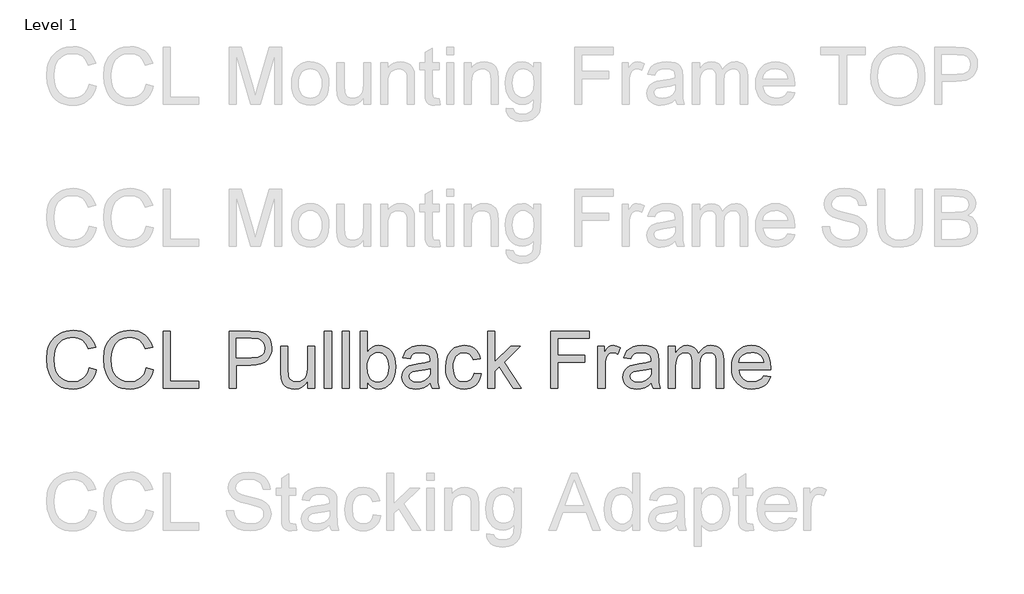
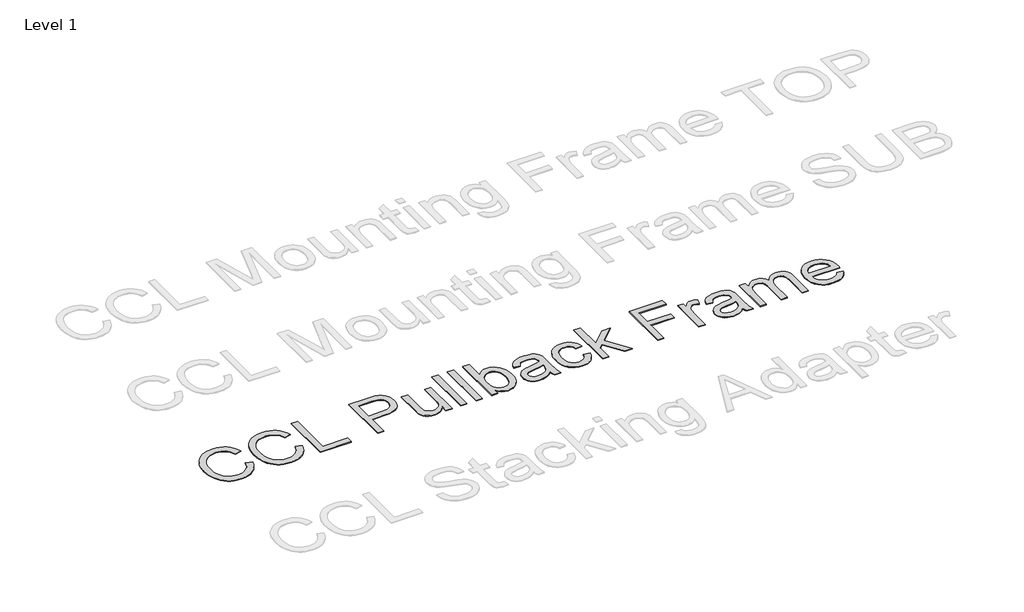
# One storey, part 3 of 31: 1 proxy.
"""IFC4 building model written with IfcOpenShell, lengths in millimetres."""

import ifcopenshell
import ifcopenshell.guid

model = None  # the IFC model being written
_history = None  # IfcOwnerHistory: only IFC2X3 demands one
_inside = {}  # id of a spatial element -> (the spatial element, [elements in it])
_under = {}  # id of a project, library or spatial element -> (it, [spatial elements below it])
_declared = {}  # id of a project -> (the project, [libraries it declares])
_typed = {}  # id of a type object -> (the type object, [elements of that type])
_made_of = {}  # id of a material, layer set ... -> (it, [elements and type objects made of it])


def new_model(schema):
    """Start an empty IFC model of exactly this schema.

    Asked for "IFC4X3", IfcOpenShell would pick the latest addendum, in which some entities
    have other attributes; the version numbers below select the first issue.
    IFC2X3 requires an IfcOwnerHistory on every rooted entity: one is made here for all.
    """
    global model, _history
    if schema == "IFC4X3":
        model = ifcopenshell.file(schema_version=(4, 3, 0, 0))
    else:
        model = ifcopenshell.file(schema=schema)
    _inside.clear()
    _under.clear()
    _declared.clear()
    _typed.clear()
    _made_of.clear()
    _history = None
    if model.schema == "IFC2X3":
        org = make("IfcOrganization", Name="unknown")
        user = make(
            "IfcPersonAndOrganization",
            ThePerson=make("IfcPerson", FamilyName="unknown"),
            TheOrganization=org,
        )
        app = make(
            "IfcApplication",
            ApplicationDeveloper=org,
            Version="unknown",
            ApplicationFullName="unknown",
            ApplicationIdentifier="unknown",
        )
        _history = make(
            "IfcOwnerHistory",
            OwningUser=user,
            OwningApplication=app,
            ChangeAction="ADDED",
            CreationDate=0,
        )
    return model


def make(cls, **values):
    """One entity of the class cls with the attributes given. An attribute that is None is left unset."""
    return model.create_entity(
        cls, **{name: value for name, value in values.items() if value is not None}
    )


def rooted(cls, **values):
    """An entity with a GlobalId (a new one), such as an element, a storey or a relation."""
    return make(cls, GlobalId=ifcopenshell.guid.new(), OwnerHistory=_history, **values)


def si_unit(unit_type, name, prefix=None):
    """IfcSIUnit, for example si_unit("LENGTHUNIT", "METRE", prefix="MILLI")."""
    return make("IfcSIUnit", UnitType=unit_type, Prefix=prefix, Name=name)


def assignment(units):
    """IfcUnitAssignment: the units of a project."""
    return None if units is None else make("IfcUnitAssignment", Units=units)


def point(xyz):
    """IfcCartesianPoint."""
    return None if xyz is None else make("IfcCartesianPoint", Coordinates=xyz)


def direction(xyz):
    """IfcDirection."""
    return None if xyz is None else make("IfcDirection", DirectionRatios=xyz)


def frame(location, z_axis=None, x_axis=None):
    """IfcAxis2Placement3D, a coordinate frame: its origin and axes. An axis left out is left unset."""
    return make(
        "IfcAxis2Placement3D",
        Location=point(location),
        Axis=direction(z_axis),
        RefDirection=direction(x_axis),
    )


def origin():
    """The frame at (0, 0, 0) with its axes left unset."""
    return frame((0.0, 0.0, 0.0))


def origin_with_axes():
    """The frame at (0, 0, 0) with the z axis (0, 0, 1) and the x axis (1, 0, 0) written out."""
    return frame((0.0, 0.0, 0.0), z_axis=(0.0, 0.0, 1.0), x_axis=(1.0, 0.0, 0.0))


def place(relative_to, where):
    """IfcLocalPlacement: puts the frame where relative to a parent placement (None: the world)."""
    return make(
        "IfcLocalPlacement", PlacementRelTo=relative_to, RelativePlacement=where
    )


def context(
    kind, dimensions, precision=None, world=None, true_north=None, identifier=None
):
    """IfcGeometricRepresentationContext, for example the 3D "Model" context."""
    return make(
        "IfcGeometricRepresentationContext",
        ContextIdentifier=identifier,
        ContextType=kind,
        CoordinateSpaceDimension=dimensions,
        Precision=precision,
        WorldCoordinateSystem=world,
        TrueNorth=true_north,
    )


def project(units=None, contexts=None):
    """IfcProject with its units and contexts."""
    return rooted(
        "IfcProject",
        Name="project",
        RepresentationContexts=contexts,
        UnitsInContext=assignment(units),
    )


def spatial(cls, under=None, at=None, **own):
    """A site, building, storey or space (cls), placed at a placement, below another one or the project."""
    s = rooted(cls, ObjectPlacement=at, **own)
    if under is not None:
        _under.setdefault(under.id(), (under, []))[1].append(s)
    return s


def polyline(points):
    """IfcPolyline through the points."""
    return make("IfcPolyline", Points=[point(p) for p in points])


def outline(outer, holes=None, kind="AREA"):
    """IfcArbitraryClosedProfileDef: a profile drawn as a closed curve; with holes, ...WithVoids."""
    if holes is None:
        return make("IfcArbitraryClosedProfileDef", ProfileType=kind, OuterCurve=outer)
    return make(
        "IfcArbitraryProfileDefWithVoids",
        ProfileType=kind,
        OuterCurve=outer,
        InnerCurves=holes,
    )


def extrude(swept, where, along, depth):
    """IfcExtrudedAreaSolid: the profile swept, set in the frame where, extruded along a direction by depth."""
    return make(
        "IfcExtrudedAreaSolid",
        SweptArea=swept,
        Position=where,
        ExtrudedDirection=direction(along),
        Depth=depth,
    )


def shape(context_of_items, identifier, shape_type, items):
    """IfcShapeRepresentation: the items that make up one representation, for example the "Body"."""
    return make(
        "IfcShapeRepresentation",
        ContextOfItems=context_of_items,
        RepresentationIdentifier=identifier,
        RepresentationType=shape_type,
        Items=items,
    )


def made_of(thing, what):
    """Note that an element or type object is made of a material, layer set ...; save() writes the relation."""
    if what is not None:
        _made_of.setdefault(what.id(), (what, []))[1].append(thing)
    return thing


def element(
    cls,
    number,
    at=None,
    inside=None,
    cuts=None,
    type_object=None,
    material=None,
    context=None,
    identifier="Body",
    shape_type=None,
    held_by="IfcProductDefinitionShape",
    body=None,
    shapes=None,
    **own,
):
    """One element of the class cls, such as IfcWall. Its Tag is "e" and its number.

    at: its placement. inside: the storey or other place that contains it. cuts: it is an
    opening in that element (IfcRelVoidsElement). A single representation is given by context,
    identifier, shape_type and body (its items); several are given by shapes. held_by: the class
    of the entity that holds the representations. save() writes the other relations.
    """
    e = rooted(cls, Tag="e%d" % number, ObjectPlacement=at, **own)
    if body is not None:
        shapes = [shape(context, identifier, shape_type, body)]
    if shapes is not None:
        e.Representation = make(held_by, Representations=shapes)
    if inside is not None:
        _inside.setdefault(inside.id(), (inside, []))[1].append(e)
    if cuts is not None:
        rooted(
            "IfcRelVoidsElement", RelatingBuildingElement=cuts, RelatedOpeningElement=e
        )
    if type_object is not None:
        _typed.setdefault(type_object.id(), (type_object, []))[1].append(e)
    return made_of(e, material)


def aggregate(whole, parts):
    """IfcRelAggregates: a whole, such as a stair, and the parts it consists of."""
    return rooted("IfcRelAggregates", RelatingObject=whole, RelatedObjects=parts)


def save(model, path):
    """Write the relations noted so far, then the file.

    IfcRelAggregates (storeys below a building ...), IfcRelContainedInSpatialStructure (elements
    in a storey), IfcRelDefinesByType, IfcRelAssociatesMaterial and IfcRelDeclares: one each for
    every whole, place, type object, material and project.
    """
    for whole, parts in _under.values():
        aggregate(whole, parts)
    for where, things in _inside.values():
        rooted(
            "IfcRelContainedInSpatialStructure",
            RelatedElements=things,
            RelatingStructure=where,
        )
    for kind, things in _typed.values():
        rooted("IfcRelDefinesByType", RelatedObjects=things, RelatingType=kind)
    for what, things in _made_of.values():
        rooted("IfcRelAssociatesMaterial", RelatedObjects=things, RelatingMaterial=what)
    for by, libraries in _declared.values():
        rooted("IfcRelDeclares", RelatingContext=by, RelatedDefinitions=libraries)
    model.write(path)


model = new_model("IFC4")

# Units and contexts
model_context = context("Model", 3, world=origin())
ifc_project = project(units=[si_unit("LENGTHUNIT", "METRE", prefix="MILLI")], contexts=[model_context])

# Site, building, storey
site = spatial("IfcSite", under=ifc_project)
building = spatial("IfcBuilding", under=site)
storey = spatial("IfcBuildingStorey", under=building, Name="Level 1", Elevation=0.0)

# Proxy
placement = place(None, origin())
element("IfcBuildingElementProxy", 1, Name="400mm Arial", ObjectType="400mm Arial", at=placement, inside=storey, context=model_context, shape_type="SweptSolid", body=[
    extrude(outline(polyline([(-20609.9461568, -17854.6815806), (-20559.7180017, -17867.6310268), (-20569.656947, -17898.8672739), (-20582.8945674, -17926.1610523), (-20599.4308631, -17949.5123619), (-20619.265834, -17968.9212029), (-20641.9518904, -17984.1791086), (-20667.0414425, -17995.0776127), (-20694.5344902, -18001.6167152), (-20724.4310337, -18003.796416), (-20755.0602755, -18002.1470784), (-20782.691279, -17997.1990655), (-20807.3240443, -17988.9523775), (-20828.9585713, -17977.4070142), (-20847.8922313, -17962.734654), (-20864.4223956, -17945.106975), (-20878.5490642, -17924.5239774), (-20890.2722371, -17900.9856611), (-20906.0543747, -17849.1142998), (-20911.3150873, -17793.5641185), (-20905.3676617, -17734.9727794), (-20897.9333797, -17708.6753481), (-20887.5253849, -17684.3767423), (-20874.3766693, -17662.4785666), (-20858.7202247, -17643.3824253), (-20840.5560512, -17627.0883186), (-20819.8841487, -17613.5962464), (-20797.4065588, -17603.0165734), (-20773.8253229, -17595.4596641), (-20723.3519132, -17589.4141366), (-20694.623395, -17591.3700426), (-20668.2799785, -17597.2377604), (-20644.3216636, -17607.0172901), (-20622.7484502, -17620.7086317), (-20603.9159578, -17637.9500345), (-20588.1798054, -17658.379748), (-20575.5399932, -17681.9977721), (-20565.9965211, -17708.8041068), (-20616.2246762, -17720.7725344), (-20633.6377573, -17684.1437504), (-20657.4274596, -17659.0174101), (-20687.8880888, -17644.4860713), (-20725.3139505, -17639.6422917), (-20768.4542458, -17645.0133688), (-20787.1365198, -17651.7272152), (-20803.8935447, -17661.1266002), (-20830.7857185, -17686.2897287), (-20848.2846387, -17718.8104971), (-20857.8863588, -17755.5741711), (-20861.0869322, -17793.4660166), (-20857.2977476, -17839.8681989), (-20845.930194, -17879.9918619), (-20826.5550756, -17912.3041638), (-20798.7431967, -17935.272263), (-20765.4008252, -17948.9942614), (-20729.4342288, -17953.5682609), (-20707.5973667, -17952.0108938), (-20687.5079441, -17947.3387925), (-20669.165961, -17939.5519569), (-20652.5714173, -17928.6503871), (-20638.1167206, -17914.683134), (-20626.1942783, -17897.6992486), (-20616.8040903, -17877.6987308), (-20609.9461568, -17854.6815806)])), origin_with_axes(), (0.0, 0.0, 1.0), 5.0),
    extrude(outline(polyline([(-20208.1209162, -17854.6815806), (-20157.8927611, -17867.6310268), (-20167.8317064, -17898.8672739), (-20181.0693268, -17926.1610523), (-20197.6056225, -17949.5123619), (-20217.4405934, -17968.9212029), (-20240.1266498, -17984.1791086), (-20265.2162019, -17995.0776127), (-20292.7092496, -18001.6167152), (-20322.6057931, -18003.796416), (-20353.2350349, -18002.1470784), (-20380.8660384, -17997.1990655), (-20405.4988037, -17988.9523775), (-20427.1333307, -17977.4070142), (-20446.0669907, -17962.734654), (-20462.597155, -17945.106975), (-20476.7238236, -17924.5239774), (-20488.4469965, -17900.9856611), (-20504.2291341, -17849.1142998), (-20509.4898467, -17793.5641185), (-20503.5424211, -17734.9727794), (-20496.1081391, -17708.6753481), (-20485.7001443, -17684.3767423), (-20472.5514287, -17662.4785666), (-20456.8949841, -17643.3824253), (-20438.7308106, -17627.0883186), (-20418.0589081, -17613.5962464), (-20395.5813182, -17603.0165734), (-20372.0000823, -17595.4596641), (-20321.5266726, -17589.4141366), (-20292.7981544, -17591.3700426), (-20266.4547379, -17597.2377604), (-20242.496423, -17607.0172901), (-20220.9232096, -17620.7086317), (-20202.0907172, -17637.9500345), (-20186.3545648, -17658.379748), (-20173.7147526, -17681.9977721), (-20164.1712805, -17708.8041068), (-20214.3994356, -17720.7725344), (-20231.8125167, -17684.1437504), (-20255.602219, -17659.0174101), (-20286.0628482, -17644.4860713), (-20323.4887099, -17639.6422917), (-20366.6290052, -17645.0133688), (-20385.3112792, -17651.7272152), (-20402.0683041, -17661.1266002), (-20428.9604779, -17686.2897287), (-20446.4593981, -17718.8104971), (-20456.0611182, -17755.5741711), (-20459.2616916, -17793.4660166), (-20455.472507, -17839.8681989), (-20444.1049534, -17879.9918619), (-20424.729835, -17912.3041638), (-20396.9179561, -17935.272263), (-20363.5755846, -17948.9942614), (-20327.6089882, -17953.5682609), (-20305.7721261, -17952.0108938), (-20285.6827035, -17947.3387925), (-20267.3407204, -17939.5519569), (-20250.7461767, -17928.6503871), (-20236.29148, -17914.683134), (-20224.3690377, -17897.6992486), (-20214.9788497, -17877.6987308), (-20208.1209162, -17854.6815806)])), origin_with_axes(), (0.0, 0.0, 1.0), 5.0),
    extrude(outline(polyline([(-20088.8290479, -17997.5178966), (-20088.8290479, -17595.692656), (-20038.6008928, -17595.692656), (-20038.6008928, -17947.2897415), (-19837.6882725, -17947.2897415), (-19837.6882725, -17997.5178966), (-20088.8290479, -17997.5178966)])), origin_with_axes(), (0.0, 0.0, 1.0), 5.0),
    extrude(outline(polyline([(-19624.2186135, -17997.5178966), (-19624.2186135, -17595.692656), (-19475.2999818, -17595.692656), (-19415.2616402, -17599.5186288), (-19388.4920937, -17606.6678022), (-19366.4559622, -17618.305136), (-19348.7117873, -17634.9579276), (-19334.8181106, -17657.1534747), (-19325.8417899, -17683.33441), (-19322.849683, -17711.9433665), (-19324.8699683, -17736.6098543), (-19330.9308242, -17759.302042), (-19341.0322506, -17780.0199297), (-19355.1742477, -17798.7635173), (-19374.5892199, -17814.3004003), (-19400.5095722, -17825.3981738), (-19432.9353044, -17832.0568379), (-19471.8664165, -17834.2763926), (-19573.9904584, -17834.2763926), (-19573.9904584, -17997.5178966), (-19624.2186135, -17997.5178966)]), holes=[polyline([(-19573.9904584, -17784.0482375), (-19468.9233606, -17784.0482375), (-19424.3851137, -17779.4374499), (-19407.781373, -17773.6739653), (-19394.9545541, -17765.6050868), (-19385.3834908, -17755.4454124), (-19378.5470171, -17743.4095398), (-19373.0778381, -17713.7092001), (-19376.3029369, -17691.145771), (-19385.9782334, -17672.1140091), (-19400.9019797, -17657.7911368), (-19419.8724279, -17649.3543764), (-19470.1005829, -17645.9208111), (-19573.9904584, -17645.9208111), (-19573.9904584, -17784.0482375)])]), origin_with_axes(), (0.0, 0.0, 1.0), 5.0),
    extrude(outline(polyline([(-19071.7089076, -17997.5178966), (-19071.7089076, -17946.7992322), (-19089.8822782, -17971.7355001), (-19111.0477557, -17989.54712), (-19135.20534, -18000.234092), (-19162.3550312, -18003.796416), (-19186.8191839, -18001.2948184), (-19209.5910794, -17993.7900257), (-19228.6964177, -17982.5083112), (-19242.1608987, -17968.6759482), (-19251.2230585, -17951.8760037), (-19257.1214332, -17931.6915449), (-19260.0644892, -17884.995057), (-19260.0644892, -17702.4274855), (-19209.8363341, -17702.4274855), (-19209.8363341, -17861.3525075), (-19206.7951763, -17912.5616812), (-19199.4743246, -17929.6436685), (-19186.9295485, -17942.6299029), (-19169.994714, -17950.8336714), (-19149.5036869, -17953.5682609), (-19127.8354374, -17950.7723578), (-19107.5651394, -17942.3846483), (-19090.8510341, -17929.1776846), (-19079.8513625, -17911.9240191), (-19073.7445213, -17888.2937322), (-19071.7089076, -17855.9569049), (-19071.7089076, -17702.4274855), (-19021.4807526, -17702.4274855), (-19021.4807526, -17997.5178966), (-19071.7089076, -17997.5178966)])), origin_with_axes(), (0.0, 0.0, 1.0), 5.0),
    extrude(outline(polyline([(-18952.4170393, -17997.5178966), (-18952.4170393, -17595.692656), (-18902.1888843, -17595.692656), (-18902.1888843, -17997.5178966), (-18952.4170393, -17997.5178966)])), origin_with_axes(), (0.0, 0.0, 1.0), 5.0),
    extrude(outline(polyline([(-18826.8466516, -17997.5178966), (-18826.8466516, -17595.692656), (-18776.6184966, -17595.692656), (-18776.6184966, -17997.5178966), (-18826.8466516, -17997.5178966)])), origin_with_axes(), (0.0, 0.0, 1.0), 5.0),
    extrude(outline(polyline([(-18651.0481089, -17997.5178966), (-18701.276264, -17997.5178966), (-18701.276264, -17595.692656), (-18651.0481089, -17595.692656), (-18651.0481089, -17744.7093895), (-18634.5302073, -17723.4642043), (-18615.8785901, -17708.289072), (-18595.0932574, -17699.1839926), (-18572.1742091, -17696.1489662), (-18546.2998421, -17698.8835557), (-18521.8479522, -17707.0873241), (-18500.2164909, -17720.2452368), (-18482.8034098, -17737.8422589), (-18469.1549877, -17759.7067122), (-18458.8175037, -17785.6669183), (-18452.3059924, -17814.6437568), (-18450.1354886, -17845.5581071), (-18452.3826344, -17881.2303979), (-18459.124072, -17912.6107321), (-18470.3598013, -17939.6991097), (-18486.0898222, -17962.4955307), (-18504.9713656, -17980.564668), (-18525.6616622, -17993.4711947), (-18548.1607119, -18001.2151107), (-18572.4685147, -18003.796416), (-18596.1417211, -18000.4670839), (-18617.1293889, -17990.4790878), (-18635.4315182, -17973.8324275), (-18651.0481089, -17950.5271031), (-18651.0481089, -17997.5178966)]), holes=[polyline([(-18651.0481089, -17847.9125519), (-18647.6145436, -17889.8020484), (-18637.3138477, -17918.1534875), (-18625.1430851, -17933.6474509), (-18610.9980223, -17944.7145676), (-18594.8786596, -17951.3548376), (-18576.7849968, -17953.5682609), (-18561.7631487, -17951.9373174), (-18547.7958956, -17947.0444869), (-18534.8832375, -17938.8897693), (-18523.0251746, -17927.4731647), (-18513.1107548, -17912.82533), (-18506.0290264, -17894.9769218), (-18501.7799893, -17873.9279403), (-18500.3636437, -17849.6783855), (-18505.7960345, -17803.7176615), (-18512.5865229, -17785.9244357), (-18522.0932068, -17771.5893006), (-18533.5251398, -17760.5589721), (-18546.0913757, -17752.6801661), (-18559.7919143, -17747.9528824), (-18574.6267558, -17746.3771212), (-18589.6486039, -17748.0080647), (-18603.615857, -17752.9008953), (-18616.528515, -17761.0556128), (-18628.386578, -17772.4722174), (-18638.3009978, -17786.9728994), (-18645.3827262, -17804.3798491), (-18649.6317632, -17824.6930666), (-18651.0481089, -17847.9125519)])]), origin_with_axes(), (0.0, 0.0, 1.0), 5.0),
    extrude(outline(polyline([(-18205.2732326, -17959.8467803), (-18229.2714014, -17980.4236466), (-18253.9808088, -17993.8881276), (-18279.9655403, -18001.3193439), (-18307.7896819, -18003.796416), (-18330.1538415, -18002.3064939), (-18349.7650176, -17997.8367277), (-18366.62321, -17990.3871173), (-18380.7284188, -17979.9576627), (-18391.8660462, -17967.2105516), (-18399.8214944, -17952.8079715), (-18404.5947633, -17936.7499224), (-18406.1858529, -17919.0364043), (-18403.7823572, -17898.2142834), (-18396.5718701, -17879.3051488), (-18385.4495711, -17863.118341), (-18371.3106398, -17850.4632004), (-18354.6946363, -17840.8982685), (-18336.141121, -17833.982087), (-18292.6819946, -17826.4282434), (-18241.3256681, -17818.4819923), (-18205.5675382, -17809.1623151), (-18205.2732326, -17797.9787024), (-18208.7313233, -17775.5624262), (-18219.1055956, -17760.8961973), (-18242.3066868, -17750.0068903), (-18274.6312514, -17746.3771212), (-18304.5523204, -17748.7928797), (-18325.4480177, -17756.040155), (-18339.6973136, -17769.4433223), (-18349.6791784, -17790.3267569), (-18399.9073335, -17784.0482375), (-18391.1885302, -17756.5797152), (-18378.1777703, -17734.9973049), (-18359.6610432, -17718.491666), (-18334.4243384, -17706.2534583), (-18303.559039, -17698.6750892), (-18268.1565283, -17696.1489662), (-18234.2010201, -17698.3807836), (-18207.2843208, -17705.0762359), (-18186.9894974, -17715.1439398), (-18172.899617, -17727.4925121), (-18163.5554143, -17742.7596149), (-18157.4976242, -17761.5829104), (-18155.0450775, -17805.5325461), (-18155.0450775, -17868.0234343), (-18152.494429, -17955.2850436), (-18142.4880388, -17997.5178966), (-18192.7161938, -17997.5178966), (-18200.7605468, -17980.0557646), (-18205.2732326, -17959.8467803)]), holes=[polyline([(-18205.2732326, -17859.3904702), (-18239.0202743, -17867.7536542), (-18286.3053734, -17874.792463), (-18329.5192451, -17882.9349178), (-18340.7641714, -17888.5021987), (-18349.0905672, -17896.1786697), (-18354.2409152, -17905.3757195), (-18355.9576978, -17915.5047372), (-18352.2175642, -17930.4407462), (-18340.9971633, -17942.6789539), (-18322.5417499, -17950.8459342), (-18297.0965786, -17953.5682609), (-18270.1185656, -17950.5638913), (-18246.2798123, -17941.5507824), (-18226.9537448, -17928.2702424), (-18213.5137893, -17912.4635793), (-18207.554101, -17896.1786697), (-18205.5675382, -17873.6152406), (-18205.2732326, -17859.3904702)])]), origin_with_axes(), (0.0, 0.0, 1.0), 5.0),
    extrude(outline(polyline([(-17897.6257828, -17890.7830671), (-17847.3976277, -17897.0615865), (-17852.8606753, -17920.762384), (-17861.401669, -17941.7347234), (-17873.0206087, -17959.9786047), (-17887.7174944, -17975.4940278), (-17904.8730581, -17987.8763227), (-17923.8680318, -17996.720819), (-17944.7024154, -18002.0275167), (-17967.376209, -18003.796416), (-17995.5467728, -18001.3285409), (-18020.8049375, -17993.9249158), (-18043.150703, -17981.5855405), (-18062.5840694, -17964.3104152), (-18078.3140904, -17942.4245021), (-18089.5498196, -17916.2527639), (-18096.2912572, -17885.7952004), (-18098.5384031, -17851.0518116), (-18094.7001676, -17806.3541492), (-18083.1854611, -17767.6161751), (-18063.8103427, -17736.3339428), (-18036.3908713, -17714.0035057), (-18003.5880601, -17700.612601), (-17968.0629221, -17696.1489662), (-17945.7784702, -17697.6818078), (-17925.6216026, -17702.2803327), (-17907.5923191, -17709.944541), (-17891.6906199, -17720.6744325), (-17878.186285, -17734.2247527), (-17867.3490946, -17750.3502468), (-17859.1790486, -17769.0509149), (-17853.6761471, -17790.3267569), (-17903.9043021, -17796.6052763), (-17913.0155129, -17774.6917721), (-17927.2034952, -17758.9832109), (-17945.6834341, -17749.5286437), (-17967.6705146, -17746.3771212), (-17984.7371735, -17747.928357), (-18000.1299694, -17752.5820642), (-18013.8489021, -17760.338243), (-18025.8939717, -17771.1968932), (-18035.7010926, -17785.4094009), (-18042.7061789, -17803.2271522), (-18046.9092307, -17824.6501471), (-18048.310248, -17849.6783855), (-18042.8288063, -17896.7550181), (-18035.9770041, -17914.6923311), (-18026.3844811, -17928.8956418), (-18014.5785347, -17939.6899126), (-18001.0864625, -17947.4001061), (-17985.9082646, -17952.0262222), (-17969.0439408, -17953.5682609), (-17943.0346837, -17949.7177627), (-17921.7097907, -17938.1662681), (-17906.1974332, -17918.6194714), (-17897.6257828, -17890.7830671)])), origin_with_axes(), (0.0, 0.0, 1.0), 5.0),
    extrude(outline(polyline([(-17803.447992, -17997.5178966), (-17803.447992, -17595.692656), (-17753.2198369, -17595.692656), (-17753.2198369, -17811.6148617), (-17640.5988955, -17702.4274855), (-17571.1427748, -17702.4274855), (-17685.2352442, -17812.9882878), (-17564.8642554, -17997.5178966), (-17623.5291709, -17997.5178966), (-17721.2386288, -17847.9125519), (-17753.2198369, -17879.0108432), (-17753.2198369, -17997.5178966), (-17803.447992, -17997.5178966)])), origin_with_axes(), (0.0, 0.0, 1.0), 5.0),
    extrude(outline(polyline([(-17357.6731157, -17997.5178966), (-17357.6731157, -17595.692656), (-17087.6967822, -17595.692656), (-17087.6967822, -17645.9208111), (-17307.4449606, -17645.9208111), (-17307.4449606, -17765.2126794), (-17119.0893791, -17765.2126794), (-17119.0893791, -17815.4408345), (-17307.4449606, -17815.4408345), (-17307.4449606, -17997.5178966), (-17357.6731157, -17997.5178966)])), origin_with_axes(), (0.0, 0.0, 1.0), 5.0),
    extrude(outline(polyline([(-17024.9115883, -17997.5178966), (-17024.9115883, -17702.4274855), (-16980.9619526, -17702.4274855), (-16980.9619526, -17746.0828156), (-16964.7260939, -17720.7725344), (-16949.7655595, -17705.8610508), (-16934.7559741, -17698.5769873), (-16918.3729625, -17696.1489662), (-16893.3569869, -17700.0239898), (-16867.9486037, -17711.6490609), (-16884.7240227, -17756.6778171), (-16902.3823585, -17748.9522952), (-16920.0406942, -17746.3771212), (-16935.0380169, -17748.8541933), (-16948.4411843, -17756.2854096), (-16959.2691777, -17768.1066844), (-16966.5409784, -17783.7539319), (-16972.6478196, -17811.8110654), (-16974.6834333, -17842.4188474), (-16974.6834333, -17997.5178966), (-17024.9115883, -17997.5178966)])), origin_with_axes(), (0.0, 0.0, 1.0), 5.0),
    extrude(outline(polyline([(-16648.2004253, -17959.8467803), (-16672.1985941, -17980.4236466), (-16696.9080014, -17993.8881276), (-16722.892733, -18001.3193439), (-16750.7168746, -18003.796416), (-16773.0810342, -18002.3064939), (-16792.6922102, -17997.8367277), (-16809.5504027, -17990.3871173), (-16823.6556115, -17979.9576627), (-16834.7932389, -17967.2105516), (-16842.7486871, -17952.8079715), (-16847.5219559, -17936.7499224), (-16849.1130456, -17919.0364043), (-16846.7095499, -17898.2142834), (-16839.4990628, -17879.3051488), (-16828.3767638, -17863.118341), (-16814.2378324, -17850.4632004), (-16797.621829, -17840.8982685), (-16779.0683137, -17833.982087), (-16735.6091873, -17826.4282434), (-16684.2528608, -17818.4819923), (-16648.4947309, -17809.1623151), (-16648.2004253, -17797.9787024), (-16651.658516, -17775.5624262), (-16662.0327883, -17760.8961973), (-16685.2338795, -17750.0068903), (-16717.5584441, -17746.3771212), (-16747.479513, -17748.7928797), (-16768.3752104, -17756.040155), (-16782.6245063, -17769.4433223), (-16792.6063711, -17790.3267569), (-16842.8345262, -17784.0482375), (-16834.1157229, -17756.5797152), (-16821.104963, -17734.9973049), (-16802.5882359, -17718.491666), (-16777.351531, -17706.2534583), (-16746.4862317, -17698.6750892), (-16711.083721, -17696.1489662), (-16677.1282128, -17698.3807836), (-16650.2115135, -17705.0762359), (-16629.9166901, -17715.1439398), (-16615.8268097, -17727.4925121), (-16606.482607, -17742.7596149), (-16600.4248168, -17761.5829104), (-16597.9722702, -17805.5325461), (-16597.9722702, -17868.0234343), (-16595.4216217, -17955.2850436), (-16585.4152314, -17997.5178966), (-16635.6433865, -17997.5178966), (-16643.6877395, -17980.0557646), (-16648.2004253, -17959.8467803)]), holes=[polyline([(-16648.2004253, -17859.3904702), (-16681.947467, -17867.7536542), (-16729.2325661, -17874.792463), (-16772.4464378, -17882.9349178), (-16783.6913641, -17888.5021987), (-16792.0177599, -17896.1786697), (-16797.1681079, -17905.3757195), (-16798.8848905, -17915.5047372), (-16795.1447569, -17930.4407462), (-16783.924356, -17942.6789539), (-16765.4689426, -17950.8459342), (-16740.0237713, -17953.5682609), (-16713.0457583, -17950.5638913), (-16689.207005, -17941.5507824), (-16669.8809375, -17928.2702424), (-16656.440982, -17912.4635793), (-16650.4812936, -17896.1786697), (-16648.4947309, -17873.6152406), (-16648.2004253, -17859.3904702)])]), origin_with_axes(), (0.0, 0.0, 1.0), 5.0),
    extrude(outline(polyline([(-16528.908557, -17997.5178966), (-16528.908557, -17702.4274855), (-16478.6804019, -17702.4274855), (-16478.6804019, -17750.9879089), (-16463.5727146, -17728.6819973), (-16444.1485453, -17711.2076025), (-16421.0700815, -17699.9136252), (-16394.9995107, -17696.1489662), (-16367.0650046, -17699.9872016), (-16344.6732538, -17711.5019081), (-16327.9468857, -17729.9327961), (-16317.0085278, -17754.5195761), (-16298.7002671, -17728.9824342), (-16277.8168325, -17710.7416186), (-16254.358224, -17699.7971293), (-16228.3244414, -17696.1489662), (-16208.2166247, -17697.6664794), (-16190.567486, -17702.2190191), (-16175.3770253, -17709.8065852), (-16162.6452426, -17720.4291778), (-16152.5806043, -17734.2094242), (-16145.391577, -17751.2699518), (-16141.0781606, -17771.6107604), (-16139.6403551, -17795.2318502), (-16139.6403551, -17997.5178966), (-16189.8685102, -17997.5178966), (-16189.8685102, -17816.8142606), (-16191.0334699, -17791.7614967), (-16194.5283488, -17774.8757131), (-16201.0766483, -17763.3119557), (-16211.4018697, -17754.2252705), (-16224.6824097, -17748.3391585), (-16240.0966653, -17746.3771212), (-16267.3076702, -17751.4048418), (-16289.4909545, -17766.4880036), (-16298.0963275, -17778.0578924), (-16304.2430225, -17792.6566762), (-16309.1603785, -17830.9409292), (-16309.1603785, -17997.5178966), (-16359.3885336, -17997.5178966), (-16359.3885336, -17811.2224543), (-16362.2948014, -17782.8219642), (-16371.0136046, -17762.563929), (-16386.3542838, -17750.4238232), (-16409.1261793, -17746.3771212), (-16428.4767723, -17749.0749225), (-16446.3067863, -17757.1683264), (-16461.0220661, -17770.4611292), (-16471.0284564, -17788.7571271), (-16476.7674155, -17814.1409847), (-16478.6804019, -17848.6973668), (-16478.6804019, -17997.5178966), (-16528.908557, -17997.5178966)])), origin_with_axes(), (0.0, 0.0, 1.0), 5.0),
    extrude(outline(polyline([(-15857.695594, -17909.6186252), (-15808.4484576, -17915.8971446), (-15815.9992356, -17935.6217509), (-15826.1926325, -17953.0041752), (-15839.0286485, -17968.0444174), (-15854.5072834, -17980.7424776), (-15872.4691218, -17990.8285757), (-15892.7547482, -17998.0329314), (-15940.2973647, -18003.796416), (-15971.463101, -18001.3101468), (-15999.2320603, -17993.8513394), (-16023.6042425, -17981.4199936), (-16044.5796476, -17964.0161096), (-16061.4470371, -17942.1240652), (-16073.4951724, -17916.2282384), (-16080.7240536, -17886.3286292), (-16083.1336807, -17852.4252377), (-16080.6995281, -17817.3722149), (-16073.3970705, -17786.4762587), (-16061.2263079, -17759.737369), (-16044.1872401, -17737.1555459), (-16023.2670173, -17719.2151673), (-15999.4527895, -17706.4006111), (-15972.7445567, -17698.7118774), (-15943.1423188, -17696.1489662), (-15914.4935084, -17698.705746), (-15888.5854189, -17706.3760856), (-15865.4180503, -17719.159985), (-15844.9914025, -17737.057444), (-15828.317151, -17759.5902162), (-15816.4069714, -17786.280055), (-15809.2608637, -17817.1269603), (-15806.8788278, -17852.1309321), (-15807.1731334, -17865.6689895), (-16032.9055256, -17865.6689895), (-16029.9961922, -17885.7124269), (-16024.2112478, -17903.2665294), (-16015.5506925, -17918.3312971), (-16004.0145263, -17930.90673), (-15990.2404112, -17940.8211498), (-15974.8660095, -17947.9028782), (-15939.316346, -17953.5682609), (-15912.5835877, -17950.944036), (-15890.0692096, -17943.0713613), (-15871.7732117, -17929.4597275), (-15857.695594, -17909.6186252)]), holes=[polyline([(-16032.9055256, -17815.4408345), (-15857.1069828, -17815.4408345), (-15863.900537, -17788.9042799), (-15877.2178653, -17769.9215689), (-15890.9153382, -17759.6208731), (-15906.5012721, -17752.2632332), (-15923.9756668, -17747.8486492), (-15943.3385225, -17746.3771212), (-15977.1959288, -17751.073748), (-16005.1917486, -17765.1636285), (-16024.6527062, -17787.1261836), (-16032.9055256, -17815.4408345)])]), origin_with_axes(), (0.0, 0.0, 1.0), 5.0),
])

save(model, "model.ifc")
